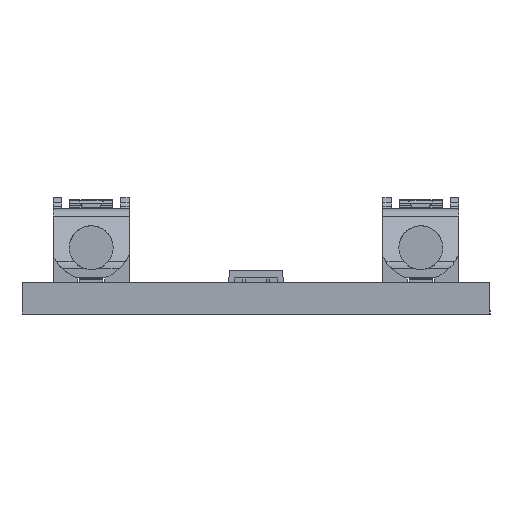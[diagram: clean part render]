
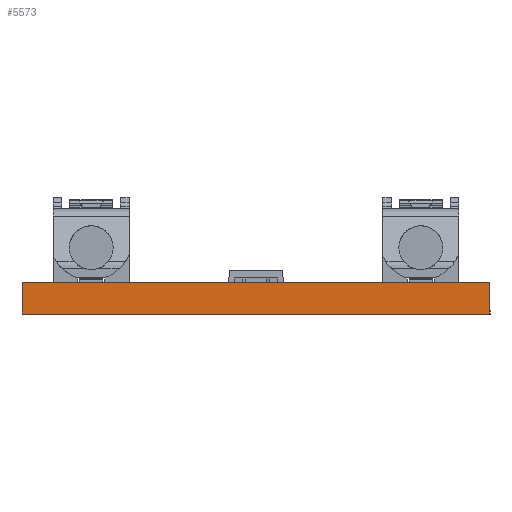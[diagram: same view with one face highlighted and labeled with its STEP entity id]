
A CAD part, left-side view. The second image highlights one B-rep face of the part: STEP entity #5573.
In plain terms, the highlighted planar face has unit normal (-1, 0, 0).
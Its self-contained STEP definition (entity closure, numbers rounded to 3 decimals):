
#129 = ORIENTED_EDGE ( 'NONE', *, *, #7472, .F. ) ;
#145 = VERTEX_POINT ( 'NONE', #5458 ) ;
#186 = CARTESIAN_POINT ( 'NONE',  ( 0., 0., 0. ) ) ;
#343 = CARTESIAN_POINT ( 'NONE',  ( 0., 0., 1.6 ) ) ;
#790 = ORIENTED_EDGE ( 'NONE', *, *, #2900, .F. ) ;
#957 = DIRECTION ( 'NONE',  ( 0., -1., 0. ) ) ;
#1324 = FACE_OUTER_BOUND ( 'NONE', #6687, .T. ) ;
#1545 = CARTESIAN_POINT ( 'NONE',  ( 0., 0., 1.6 ) ) ;
#1752 = VECTOR ( 'NONE', #957, 1000. ) ;
#2060 = EDGE_CURVE ( 'NONE', #3395, #6313, #6301, .T. ) ;
#2493 = CARTESIAN_POINT ( 'NONE',  ( 0., 0., 1.6 ) ) ;
#2550 = CARTESIAN_POINT ( 'NONE',  ( 0., 0., 1.6 ) ) ;
#2900 = EDGE_CURVE ( 'NONE', #7112, #145, #3592, .T. ) ;
#3096 = DIRECTION ( 'NONE',  ( 0., 0., -1. ) ) ;
#3395 = VERTEX_POINT ( 'NONE', #5686 ) ;
#3592 = LINE ( 'NONE', #1545, #4782 ) ;
#4082 = CARTESIAN_POINT ( 'NONE',  ( 0., 24., 1.6 ) ) ;
#4219 = PLANE ( 'NONE',  #4641 ) ;
#4641 = AXIS2_PLACEMENT_3D ( 'NONE', #2493, #6614, #3096 ) ;
#4782 = VECTOR ( 'NONE', #7456, 1000. ) ;
#4897 = DIRECTION ( 'NONE',  ( 0., -1., 0. ) ) ;
#5458 = CARTESIAN_POINT ( 'NONE',  ( 0., 0., 0. ) ) ;
#5573 = ADVANCED_FACE ( 'NONE', ( #1324 ), #4219, .F. ) ;
#5686 = CARTESIAN_POINT ( 'NONE',  ( 0., 24., 1.6 ) ) ;
#5795 = ORIENTED_EDGE ( 'NONE', *, *, #2060, .T. ) ;
#5871 = DIRECTION ( 'NONE',  ( 0., 0., -1. ) ) ;
#6111 = VECTOR ( 'NONE', #5871, 1000. ) ;
#6301 = LINE ( 'NONE', #4082, #6111 ) ;
#6313 = VERTEX_POINT ( 'NONE', #7519 ) ;
#6345 = ORIENTED_EDGE ( 'NONE', *, *, #7117, .T. ) ;
#6458 = LINE ( 'NONE', #343, #1752 ) ;
#6614 = DIRECTION ( 'NONE',  ( 1., 0., 0. ) ) ;
#6687 = EDGE_LOOP ( 'NONE', ( #6345, #790, #129, #5795 ) ) ;
#6741 = VECTOR ( 'NONE', #4897, 1000. ) ;
#6917 = LINE ( 'NONE', #186, #6741 ) ;
#7112 = VERTEX_POINT ( 'NONE', #2550 ) ;
#7117 = EDGE_CURVE ( 'NONE', #6313, #145, #6917, .T. ) ;
#7456 = DIRECTION ( 'NONE',  ( 0., 0., -1. ) ) ;
#7472 = EDGE_CURVE ( 'NONE', #3395, #7112, #6458, .T. ) ;
#7519 = CARTESIAN_POINT ( 'NONE',  ( 0., 24., 0. ) ) ;
